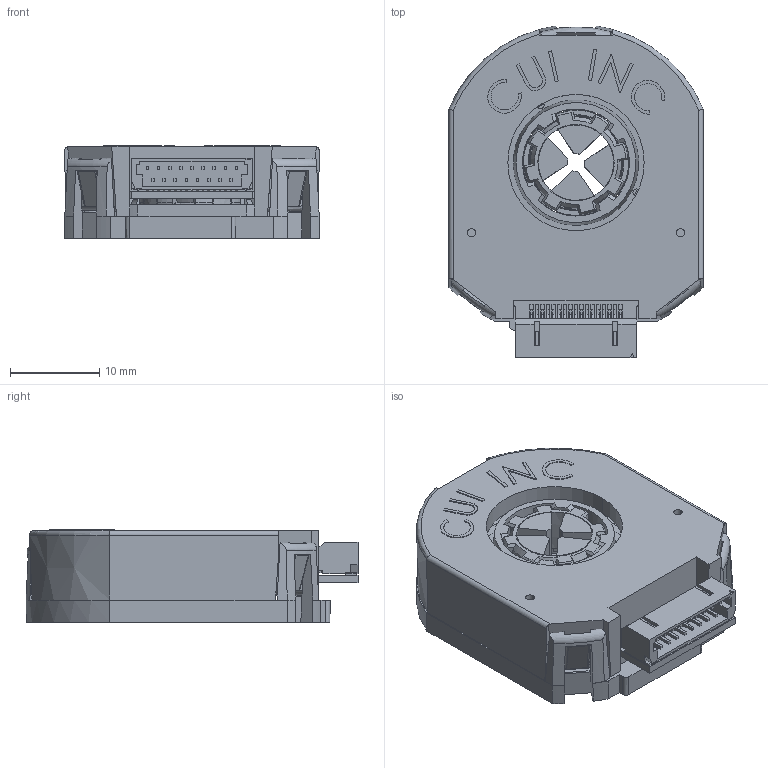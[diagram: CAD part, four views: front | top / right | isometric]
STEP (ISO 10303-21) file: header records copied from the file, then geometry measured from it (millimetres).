
FILE_DESCRIPTION (( 'STEP AP214' ), '1' );
FILE_NAME ('CUI_AMT112S-0048-2000-S.step', '2018-05-08T16:11:15', ( '' ), ( '' ), 'SwSTEP 2.0', 'SolidWorks 2018', '' );
FILE_SCHEMA (( 'AUTOMOTIVE_DESIGN' ));
Length unit declared in the file: millimetre
Products named in the file (12): AMT-Overmold_Hub-REV_A; AMT-Shaft-Adaptor-REVD_Fixed; Rotor_16f_5c_Rev_D; AMT-103-Base-REV-K; Receiver-board; AMT-203_303-Top-Cover_Rev_D_14CLD; K3D-FI-W17P-HFE-R1 JAE Connector Division Proprietary; AMT11-31 Transmitter Board Assembly; AMT_112_113_Transmitter-board new_AMT-103; CUI_AMT112S-0048-2000-S; AMT-Sleeve-REV-D_ 2 mm; Overmold_Rev_A
Assembly tree (11 placements, depth 3):
  CUI_AMT112S-0048-2000-S
    AMT-203_303-Top-Cover_Rev_D_14CLD
    AMT-103-Base-REV-K
    Overmold_Rev_A
      Rotor_16f_5c_Rev_D
      AMT-Overmold_Hub-REV_A
    AMT-Shaft-Adaptor-REVD_Fixed
    Receiver-board
    AMT-Sleeve-REV-D_ 2 mm
    AMT11-31 Transmitter Board Assembly
      AMT_112_113_Transmitter-board new_AMT-103
      K3D-FI-W17P-HFE-R1 JAE Connector Division Proprietary
Bounding box: 28.59 x 37.25 x 10.4 mm (x, y, z)
Volume: 5725.5 mm3; surface area: 11688.8 mm2
Topology: 10 solids, 10 shells, 6323 faces, 17172 edges, 11432 vertices
Faces by surface type: plane 4681, cylinder 1414, cone 162, bspline 47, torus 19
Entity records: 262469 total; most frequent: CARTESIAN_POINT 39905, ORIENTED_EDGE 34336, DIRECTION 32347, EDGE_CURVE 17168, LINE 13449, VECTOR 13449, VERTEX_POINT 11432, AXIS2_PLACEMENT_3D 9449
